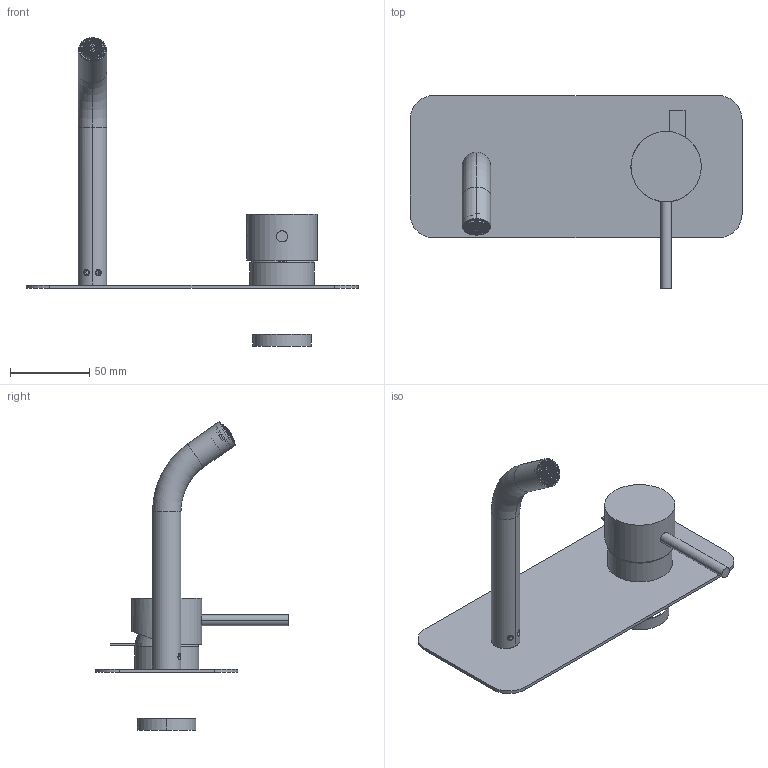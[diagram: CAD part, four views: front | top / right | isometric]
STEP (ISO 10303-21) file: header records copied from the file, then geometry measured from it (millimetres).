
FILE_DESCRIPTION((''),'2;1');
FILE_NAME('F3081WX5_ASM','2023-03-21T10:10:02',('samuelef'),(''),'CREO PARAMETRIC BY PTC INC, 2021184','CREO PARAMETRIC BY PTC INC, 2021184','');
FILE_SCHEMA(('CONFIG_CONTROL_DESIGN'));
Products named in the file (10): 5486IN_AF0; 4618INTAMC; AKART35NIN_AF0_ASM; 4559RIN_AF0; 7145NIN; KOMBINIEREN1; 4822_ASM; 5479INMAR; 5495IN; F3081WX5_ASM
Assembly tree (9 placements, depth 3):
  F3081WX5_ASM
    AKART35NIN_AF0_ASM
      5486IN_AF0
      4618INTAMC
    4559RIN_AF0
    7145NIN
    4822_ASM
      KOMBINIEREN1
    5479INMAR
    5495IN
Bounding box: 210 x 122 x 195.07 mm (x, y, z)
Volume: 91598.4 mm3; surface area: 77262.4 mm2
Topology: 7 solids, 19 shells, 2844 faces, 8330 edges, 5552 vertices
Faces by surface type: plane 1767, torus 402, cylinder 301, extrusion 159, bspline 137, cone 68, sphere 10
Entity records: 113941 total; most frequent: CARTESIAN_POINT 43789, ORIENTED_EDGE 16562, DIRECTION 11512, EDGE_CURVE 8310, VERTEX_POINT 5552, AXIS2_PLACEMENT_3D 4061, B_SPLINE_CURVE_WITH_KNOTS 3757, VECTOR 3390
